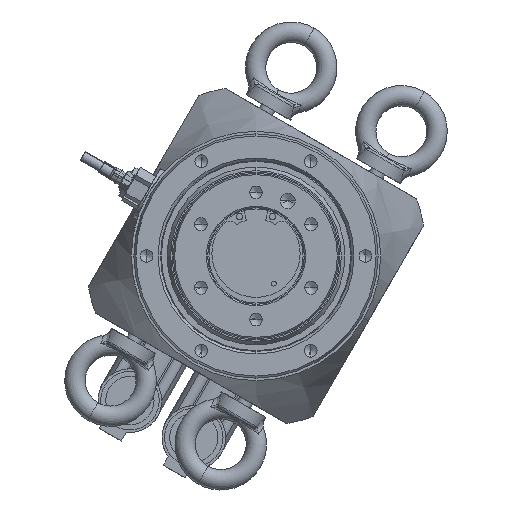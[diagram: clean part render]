
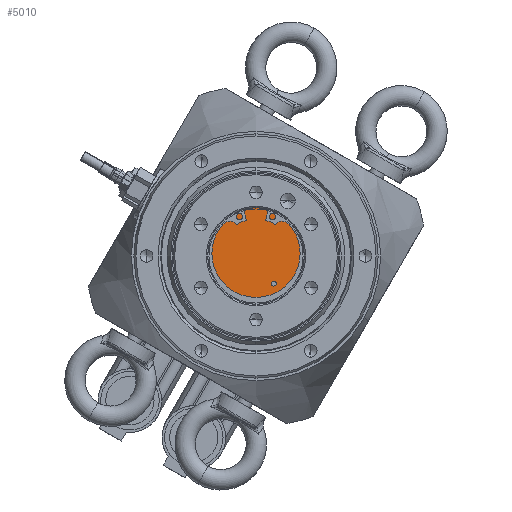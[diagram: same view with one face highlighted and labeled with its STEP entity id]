
A CAD part, front view. The second image highlights one B-rep face of the part: STEP entity #5010.
In plain terms, the highlighted planar face has unit normal (0, -1, 0).
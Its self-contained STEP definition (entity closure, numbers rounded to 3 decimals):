
#650 = DIRECTION ( 'NONE',  ( 0., 1., 0. ) ) ;
#1060 = DIRECTION ( 'NONE',  ( 0., 1., 0. ) ) ;
#2279 = DIRECTION ( 'NONE',  ( 0., 1., 0. ) ) ;
#2797 = CARTESIAN_POINT ( 'NONE',  ( -25.359, -409.123, -9.611 ) ) ;
#3536 = DIRECTION ( 'NONE',  ( 0., 1., 0. ) ) ;
#4444 = EDGE_LOOP ( 'NONE', ( #11950, #17821 ) ) ;
#5010 = ADVANCED_FACE ( 'NONE', ( #17645, #8701 ), #17998, .F. ) ;
#5086 = DIRECTION ( 'NONE',  ( 0., 0., 1. ) ) ;
#5508 = DIRECTION ( 'NONE',  ( 0., 0., 1. ) ) ;
#6981 = VERTEX_POINT ( 'NONE', #18175 ) ;
#7100 = CIRCLE ( 'NONE', #8052, 1. ) ;
#7451 = ORIENTED_EDGE ( 'NONE', *, *, #26693, .T. ) ;
#7517 = CARTESIAN_POINT ( 'NONE',  ( -32.299, -409.123, 2.217 ) ) ;
#8052 = AXIS2_PLACEMENT_3D ( 'NONE', #25386, #1060, #5508 ) ;
#8701 = FACE_BOUND ( 'NONE', #20263, .T. ) ;
#9020 = AXIS2_PLACEMENT_3D ( 'NONE', #21571, #2279, #22613 ) ;
#9577 = ORIENTED_EDGE ( 'NONE', *, *, #11994, .T. ) ;
#9711 = VERTEX_POINT ( 'NONE', #15111 ) ;
#11950 = ORIENTED_EDGE ( 'NONE', *, *, #14973, .F. ) ;
#11994 = EDGE_CURVE ( 'NONE', #6981, #14730, #7100, .T. ) ;
#12429 = DIRECTION ( 'NONE',  ( 0., 0., 1. ) ) ;
#12651 = AXIS2_PLACEMENT_3D ( 'NONE', #21088, #3536, #12429 ) ;
#12806 = CIRCLE ( 'NONE', #12651, 18.95 ) ;
#13937 = CIRCLE ( 'NONE', #24477, 18.95 ) ;
#14730 = VERTEX_POINT ( 'NONE', #2797 ) ;
#14973 = EDGE_CURVE ( 'NONE', #9711, #19243, #13937, .T. ) ;
#15111 = CARTESIAN_POINT ( 'NONE',  ( -32.299, -409.123, -16.733 ) ) ;
#15998 = DIRECTION ( 'NONE',  ( 0., 1., 0. ) ) ;
#16503 = DIRECTION ( 'NONE',  ( 0., 0., 1. ) ) ;
#17645 = FACE_OUTER_BOUND ( 'NONE', #4444, .T. ) ;
#17821 = ORIENTED_EDGE ( 'NONE', *, *, #26881, .F. ) ;
#17998 = PLANE ( 'NONE',  #9020 ) ;
#18175 = CARTESIAN_POINT ( 'NONE',  ( -25.359, -409.123, -7.611 ) ) ;
#19243 = VERTEX_POINT ( 'NONE', #26189 ) ;
#20263 = EDGE_LOOP ( 'NONE', ( #7451, #9577 ) ) ;
#21088 = CARTESIAN_POINT ( 'NONE',  ( -32.299, -409.123, 2.217 ) ) ;
#21571 = CARTESIAN_POINT ( 'NONE',  ( -32.299, -409.123, 2.217 ) ) ;
#22613 = DIRECTION ( 'NONE',  ( 0., 0., 1. ) ) ;
#23784 = AXIS2_PLACEMENT_3D ( 'NONE', #25249, #650, #16503 ) ;
#24477 = AXIS2_PLACEMENT_3D ( 'NONE', #7517, #15998, #5086 ) ;
#24988 = CIRCLE ( 'NONE', #23784, 1. ) ;
#25249 = CARTESIAN_POINT ( 'NONE',  ( -25.359, -409.123, -8.611 ) ) ;
#25386 = CARTESIAN_POINT ( 'NONE',  ( -25.359, -409.123, -8.611 ) ) ;
#26189 = CARTESIAN_POINT ( 'NONE',  ( -32.299, -409.123, 21.167 ) ) ;
#26693 = EDGE_CURVE ( 'NONE', #14730, #6981, #24988, .T. ) ;
#26881 = EDGE_CURVE ( 'NONE', #19243, #9711, #12806, .T. ) ;
